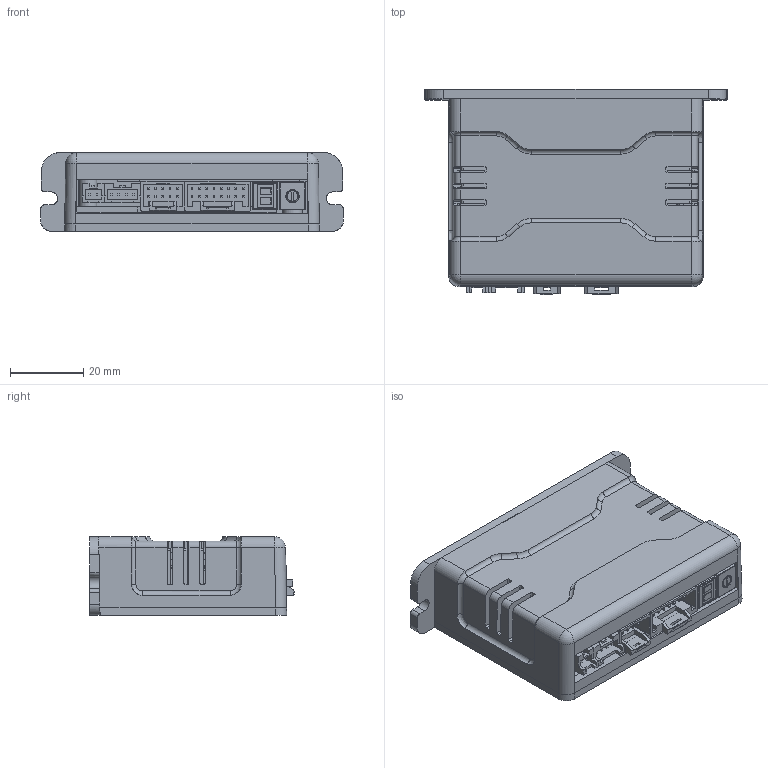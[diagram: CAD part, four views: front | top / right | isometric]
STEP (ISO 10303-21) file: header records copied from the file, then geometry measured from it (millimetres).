
FILE_DESCRIPTION(('STEP AP203'),'1');
FILE_NAME('D:/FASTECH/작업도면/CAD DATA/Mini Case Assembly/EzI-SERVO 3D도면/4.stp','2011-01-14T06:57:15',(' '),(' '),'Spatial InterOp 3D',' ',' ');
FILE_SCHEMA(('CONFIG_CONTROL_DESIGN'));
Length unit declared in the file: millimetre
Products named in the file (17): 1; 2; 3; 4; 5; 6; 7; 8; 9; 10; 11; 12; 13; 14; 15; 16; 17
Bounding box: 82.84 x 56.07 x 21.5 mm (x, y, z)
Volume: 36173.5 mm3; surface area: 40000.1 mm2
Topology: 15 solids, 245 shells, 1980 faces, 5675 edges, 4021 vertices
Faces by surface type: plane 1431, cylinder 370, bspline 85, torus 34, revolution 34, cone 18, sphere 8
Entity records: 69129 total; most frequent: CARTESIAN_POINT 17501, DIRECTION 10075, ORIENTED_EDGE 10038, EDGE_CURVE 5634, LINE 4457, VECTOR 4457, VERTEX_POINT 4021, AXIS2_PLACEMENT_3D 2792
